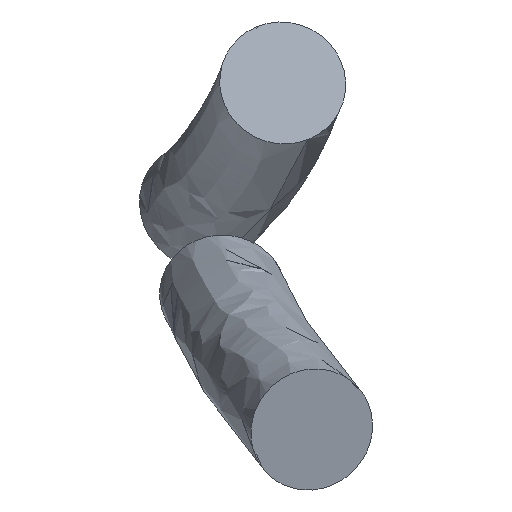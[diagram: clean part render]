
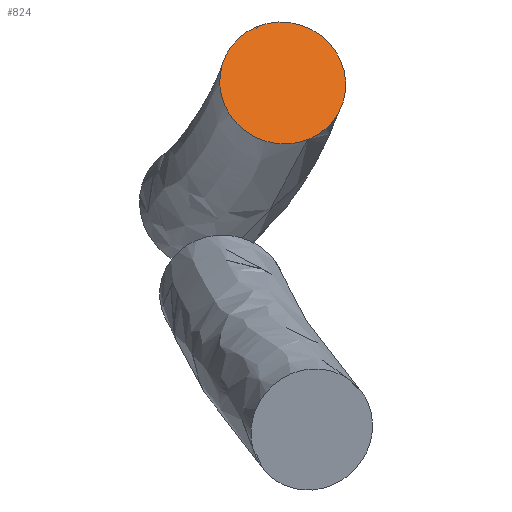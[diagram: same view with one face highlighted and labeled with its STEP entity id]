
A CAD part, top view. The second image highlights one B-rep face of the part: STEP entity #824.
In plain terms, the highlighted planar face has unit normal (0.101, 0.267, 0.959).
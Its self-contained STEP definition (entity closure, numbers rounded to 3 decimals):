
#48 = AXIS2_PLACEMENT_3D ( 'NONE', #1531, #488, #906 ) ;
#49 = CARTESIAN_POINT ( 'NONE',  ( 319.33, -203.503, 834.356 ) ) ;
#146 = EDGE_LOOP ( 'NONE', ( #1018, #251 ) ) ;
#213 = CARTESIAN_POINT ( 'NONE',  ( 328.238, -223.632, 839.017 ) ) ;
#231 = CARTESIAN_POINT ( 'NONE',  ( 310.422, -183.375, 829.695 ) ) ;
#251 = ORIENTED_EDGE ( 'NONE', *, *, #384, .T. ) ;
#358 = EDGE_CURVE ( 'NONE', #783, #1042, #1485, .T. ) ;
#384 = EDGE_CURVE ( 'NONE', #1042, #783, #1064, .T. ) ;
#404 = AXIS2_PLACEMENT_3D ( 'NONE', #1436, #1199, #1189 ) ;
#488 = DIRECTION ( 'NONE',  ( 0.101, 0.267, 0.959 ) ) ;
#508 = AXIS2_PLACEMENT_3D ( 'NONE', #49, #1315, #1207 ) ;
#783 = VERTEX_POINT ( 'NONE', #231 ) ;
#824 = ADVANCED_FACE ( 'NONE', ( #1392 ), #1127, .T. ) ;
#906 = DIRECTION ( 'NONE',  ( -0.396, 0.895, -0.207 ) ) ;
#1018 = ORIENTED_EDGE ( 'NONE', *, *, #358, .T. ) ;
#1042 = VERTEX_POINT ( 'NONE', #213 ) ;
#1064 = CIRCLE ( 'NONE', #508, 22.5 ) ;
#1127 = PLANE ( 'NONE',  #48 ) ;
#1189 = DIRECTION ( 'NONE',  ( -0.396, 0.895, -0.207 ) ) ;
#1199 = DIRECTION ( 'NONE',  ( 0.101, 0.267, 0.959 ) ) ;
#1207 = DIRECTION ( 'NONE',  ( -0.396, 0.895, -0.207 ) ) ;
#1315 = DIRECTION ( 'NONE',  ( 0.101, 0.267, 0.959 ) ) ;
#1392 = FACE_OUTER_BOUND ( 'NONE', #146, .T. ) ;
#1436 = CARTESIAN_POINT ( 'NONE',  ( 319.33, -203.503, 834.356 ) ) ;
#1485 = CIRCLE ( 'NONE', #404, 22.5 ) ;
#1531 = CARTESIAN_POINT ( 'NONE',  ( 319.33, -203.503, 834.356 ) ) ;
